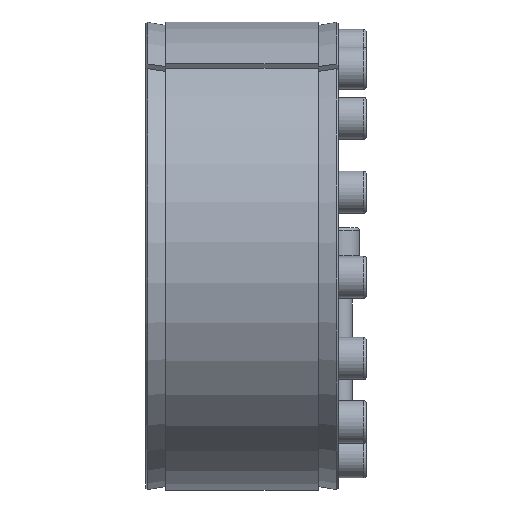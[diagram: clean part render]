
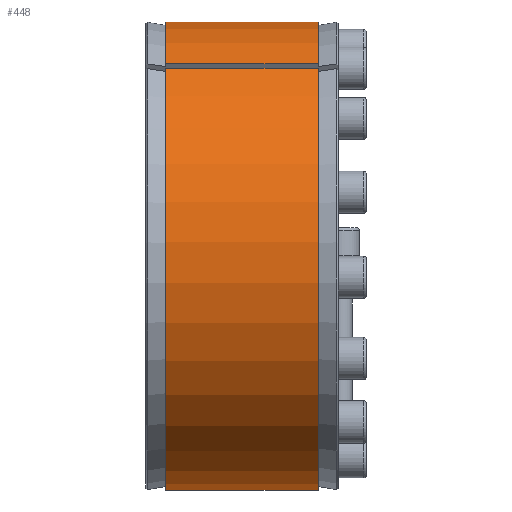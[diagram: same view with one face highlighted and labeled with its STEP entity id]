
A CAD part, left-side view. The second image highlights one B-rep face of the part: STEP entity #448.
In plain terms, the highlighted cylindrical face has radius 100 mm (diameter 200 mm), a partial arc.
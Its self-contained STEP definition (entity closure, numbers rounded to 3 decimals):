
#448 = ADVANCED_FACE( '', ( #787 ), #788, .T. );
#787 = FACE_OUTER_BOUND( '', #1124, .T. );
#788 = CYLINDRICAL_SURFACE( '', #1125, 100. );
#1124 = EDGE_LOOP( '', ( #1741, #1742, #1743, #1744 ) );
#1125 = AXIS2_PLACEMENT_3D( '', #1745, #1746, #1747 );
#1741 = ORIENTED_EDGE( '', *, *, #2301, .T. );
#1742 = ORIENTED_EDGE( '', *, *, #2265, .T. );
#1743 = ORIENTED_EDGE( '', *, *, #2324, .F. );
#1744 = ORIENTED_EDGE( '', *, *, #2408, .T. );
#1745 = CARTESIAN_POINT( '', ( 0., -60., 0. ) );
#1746 = DIRECTION( '', ( 0., 1., 0. ) );
#1747 = DIRECTION( '', ( 0., 0., -1. ) );
#2265 = EDGE_CURVE( '', #2585, #2583, #2586, .T. );
#2301 = EDGE_CURVE( '', #2651, #2585, #2652, .T. );
#2324 = EDGE_CURVE( '', #2693, #2583, #2694, .T. );
#2408 = EDGE_CURVE( '', #2693, #2651, #2836, .F. );
#2583 = VERTEX_POINT( '', #3025 );
#2585 = VERTEX_POINT( '', #3028 );
#2586 = LINE( '', #3029, #3030 );
#2651 = VERTEX_POINT( '', #3120 );
#2652 = CIRCLE( '', #3121, 100. );
#2693 = VERTEX_POINT( '', #3170 );
#2694 = CIRCLE( '', #3171, 100. );
#2836 = LINE( '', #3492, #3493 );
#3025 = CARTESIAN_POINT( '', ( -57.354, 8.5, 81.918 ) );
#3028 = CARTESIAN_POINT( '', ( -57.354, 73.5, 81.918 ) );
#3029 = CARTESIAN_POINT( '', ( -57.354, -60., 81.918 ) );
#3030 = VECTOR( '', #3630, 1000. );
#3120 = CARTESIAN_POINT( '', ( -60.185, 73.5, 79.861 ) );
#3121 = AXIS2_PLACEMENT_3D( '', #3707, #3708, #3709 );
#3170 = CARTESIAN_POINT( '', ( -60.185, 8.5, 79.861 ) );
#3171 = AXIS2_PLACEMENT_3D( '', #3766, #3767, #3768 );
#3492 = CARTESIAN_POINT( '', ( -60.185, -60., 79.861 ) );
#3493 = VECTOR( '', #3954, 1000. );
#3630 = DIRECTION( '', ( 0., -1., 0. ) );
#3707 = CARTESIAN_POINT( '', ( 0., 73.5, 0. ) );
#3708 = DIRECTION( '', ( 0., -1., 0. ) );
#3709 = DIRECTION( '', ( 0., 0., -1. ) );
#3766 = CARTESIAN_POINT( '', ( 0., 8.5, 0. ) );
#3767 = DIRECTION( '', ( 0., -1., 0. ) );
#3768 = DIRECTION( '', ( 0., 0., -1. ) );
#3954 = DIRECTION( '', ( 0., -1., 0. ) );
